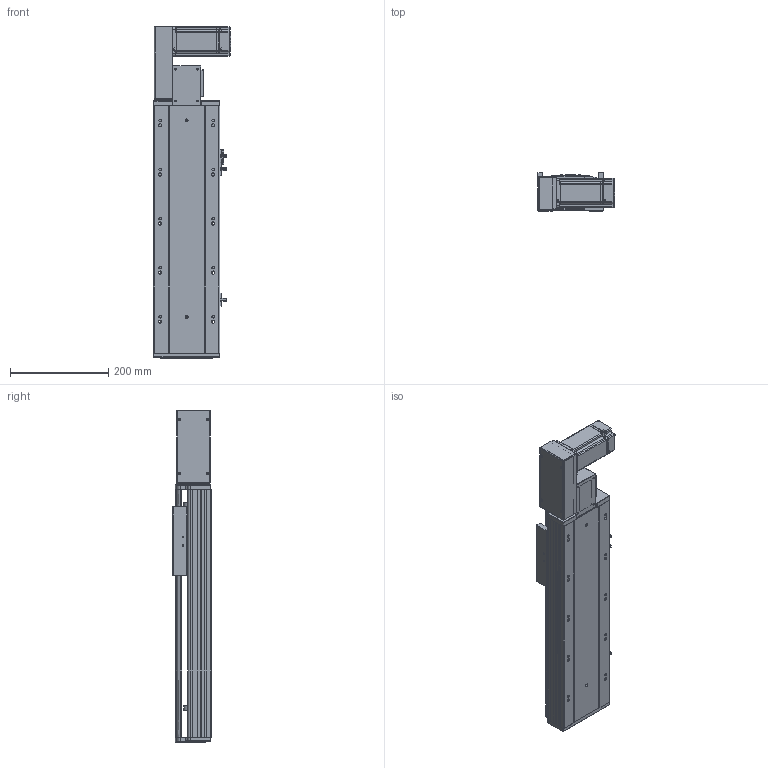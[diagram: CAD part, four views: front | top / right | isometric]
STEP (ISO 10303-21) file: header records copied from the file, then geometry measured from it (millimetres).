
FILE_DESCRIPTION (( 'STEP AP203' ), '1' );
FILE_NAME ('RY140-T-300-LK.SLDASM_250.step', '2021-03-01T06:34:35', ( '盈信电脑' ), ( '东莞市道滘镇水果街19号' ), 'SwSTEP 2.0', 'SolidWorks 2012', '' );
FILE_SCHEMA (( 'CONFIG_CONTROL_DESIGN' ));
Length unit declared in the file: millimetre
Products named in the file (18): RY140-T-300-LK.SLDASM_250; 滅袉蝶18-10; RY140-T萇儂欶; RY140-T翋肮謫裔啣; RY120-T蹟翐M4; RY140-T萇儂假蚾啣; 侂狟400W侜督萇儂; 15; RY120-T主同步轮轴承压盖; RY120外置感应片(140共用）; RY140-T翋肮祭謫盓傅釱; RY120-T肮祭湍揤踡輸2; RY120-T肮祭湍揤踡輸1; RY140-T-300-DL倰第奻裔啣_250; RY140綴裔啣; 覜茼ん672; RY140-T-300-DL倰第菁釱_250; RY140肮祭謫臏賑輸
Assembly tree (23 placements, depth 3):
  RY140-T-300-LK.SLDASM_250
    RY140-T-300-DL倰第菁釱_250
    RY140肮祭謫臏賑輸
    RY140-T-300-DL倰第奻裔啣_250
    RY140綴裔啣
    覜茼ん672  x3
    RY120外置感应片(140共用）
    RY120-T肮祭湍揤踡輸2
    RY120-T肮祭湍揤踡輸1
    RY140-T翋肮祭謫盓傅釱
    RY140-T萇儂假蚾啣
    侂狟400W侜督萇儂
      15
    RY120-T主同步轮轴承压盖
    RY120-T蹟翐M4  x4
    RY140-T萇儂欶
    滅袉蝶18-10  x2
    RY140-T翋肮謫裔啣
Bounding box: 157 x 78 x 676.5 mm (x, y, z)
Volume: 2201932.2 mm3; surface area: 792151 mm2
Topology: 22 solids, 22 shells, 2535 faces, 6917 edges, 4468 vertices
Faces by surface type: plane 1381, cylinder 884, cone 170, bspline 100
Entity records: 80141 total; most frequent: CARTESIAN_POINT 19635, ORIENTED_EDGE 12418, DIRECTION 11753, EDGE_CURVE 6209, VERTEX_POINT 4067, LINE 4057, VECTOR 4057, AXIS2_PLACEMENT_3D 3848
